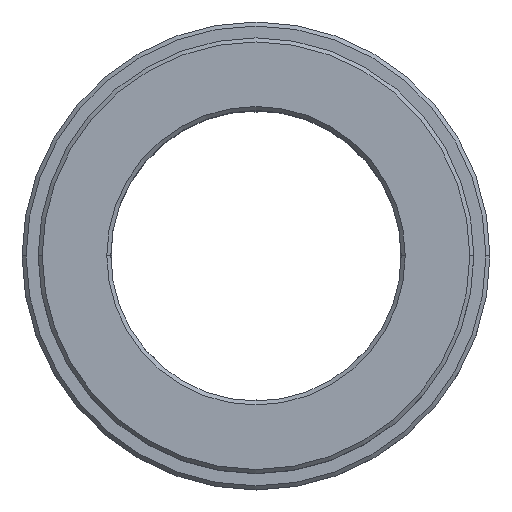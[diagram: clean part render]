
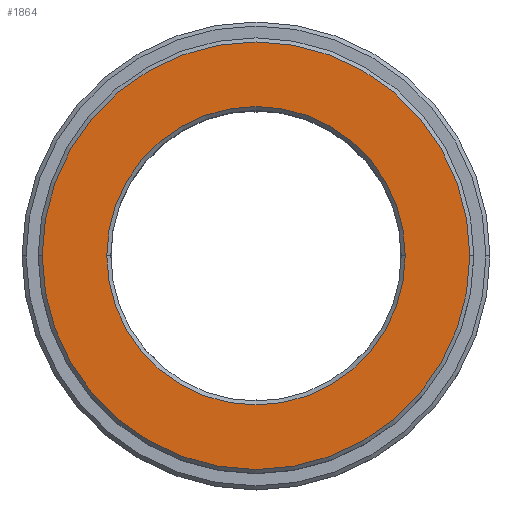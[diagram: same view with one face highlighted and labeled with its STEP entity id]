
A CAD part, top view. The second image highlights one B-rep face of the part: STEP entity #1864.
In plain terms, the highlighted planar face has unit normal (0, 0, 1).
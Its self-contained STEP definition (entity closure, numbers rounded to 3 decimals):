
#857=CARTESIAN_POINT('',(0.,0.,
22.));
#858=DIRECTION('',(0.,0.,-1.));
#859=DIRECTION('',(1.,0.,0.));
#860=AXIS2_PLACEMENT_3D('',#857,#858,#859);
#862=CARTESIAN_POINT('',(0.,0.,
22.));
#863=DIRECTION('',(0.,0.,-1.));
#864=DIRECTION('',(-1.,0.,0.));
#865=AXIS2_PLACEMENT_3D('',#862,#863,#864);
#867=CARTESIAN_POINT('',(0.,0.,
22.));
#868=DIRECTION('',(0.,0.,-1.));
#869=DIRECTION('',(-1.,0.,0.));
#870=AXIS2_PLACEMENT_3D('',#867,#868,#869);
#872=CARTESIAN_POINT('',(0.,0.,
22.));
#873=DIRECTION('',(0.,0.,-1.));
#874=DIRECTION('',(1.,0.,0.));
#875=AXIS2_PLACEMENT_3D('',#872,#873,#874);
#1153=CARTESIAN_POINT('',(26.5,0.,22.));
#1154=CARTESIAN_POINT('',(-26.5,0.,
22.));
#1155=VERTEX_POINT('',#1153);
#1156=VERTEX_POINT('',#1154);
#1157=CARTESIAN_POINT('',(-18.5,0.,22.));
#1158=CARTESIAN_POINT('',(18.5,0.,22.));
#1159=VERTEX_POINT('',#1157);
#1160=VERTEX_POINT('',#1158);
#1848=CARTESIAN_POINT('',(0.,0.,22.));
#1849=DIRECTION('',(0.,0.,1.));
#1850=DIRECTION('',(-1.,0.,0.));
#1851=AXIS2_PLACEMENT_3D('',#1848,#1849,#1850);
#1852=PLANE('',#1851);
#1854=ORIENTED_EDGE('',*,*,#1853,.T.);
#1856=ORIENTED_EDGE('',*,*,#1855,.T.);
#1857=EDGE_LOOP('',(#1854,#1856));
#1858=FACE_OUTER_BOUND('',#1857,.F.);
#1860=ORIENTED_EDGE('',*,*,#1859,.F.);
#1861=ORIENTED_EDGE('',*,*,#1838,.F.);
#1862=EDGE_LOOP('',(#1860,#1861));
#1863=FACE_BOUND('',#1862,.F.);
#1864=ADVANCED_FACE('',(#1858,#1863),#1852,.T.);
#861=CIRCLE('',#860,26.5);
#866=CIRCLE('',#865,26.5);
#871=CIRCLE('',#870,18.5);
#876=CIRCLE('',#875,18.5);
#1838=EDGE_CURVE('',#1160,#1159,#876,.T.);
#1853=EDGE_CURVE('',#1155,#1156,#861,.T.);
#1855=EDGE_CURVE('',#1156,#1155,#866,.T.);
#1859=EDGE_CURVE('',#1159,#1160,#871,.T.);
